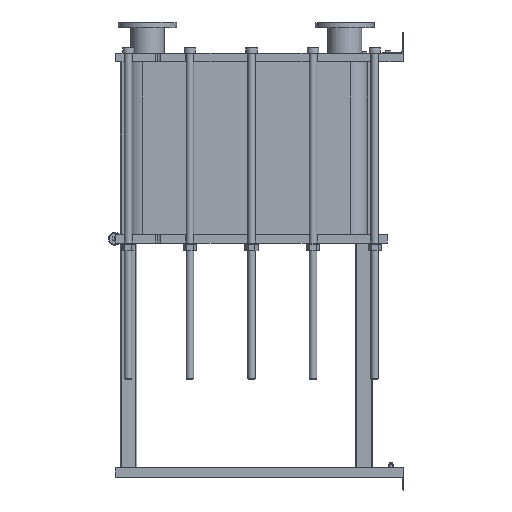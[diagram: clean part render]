
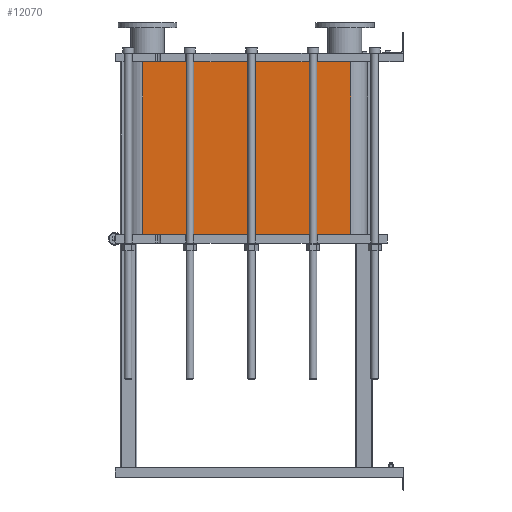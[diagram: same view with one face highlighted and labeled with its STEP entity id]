
A CAD part, left-side view. The second image highlights one B-rep face of the part: STEP entity #12070.
In plain terms, the highlighted planar face has unit normal (-1, 0, 0).
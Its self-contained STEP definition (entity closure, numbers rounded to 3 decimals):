
#1064=LINE('',#21140,#2164);
#1065=LINE('',#21144,#2165);
#1066=LINE('',#21146,#2166);
#1067=LINE('',#21147,#2167);
#2164=VECTOR('',#15790,10.);
#2165=VECTOR('',#15795,10.);
#2166=VECTOR('',#15796,10.);
#2167=VECTOR('',#15797,10.);
#3304=FACE_OUTER_BOUND('',#4091,.T.);
#4091=EDGE_LOOP('',(#9793,#9794,#9795,#9796));
#5677=VERTEX_POINT('',#21137);
#5678=VERTEX_POINT('',#21139);
#5679=VERTEX_POINT('',#21143);
#5680=VERTEX_POINT('',#21145);
#7118=EDGE_CURVE('',#5678,#5677,#1064,.T.);
#7120=EDGE_CURVE('',#5677,#5679,#1065,.T.);
#7121=EDGE_CURVE('',#5680,#5679,#1066,.T.);
#7122=EDGE_CURVE('',#5680,#5678,#1067,.T.);
#9793=ORIENTED_EDGE('',*,*,#7120,.T.);
#9794=ORIENTED_EDGE('',*,*,#7121,.F.);
#9795=ORIENTED_EDGE('',*,*,#7122,.T.);
#9796=ORIENTED_EDGE('',*,*,#7118,.T.);
#11441=PLANE('',#13191);
#12070=ADVANCED_FACE('',(#3304),#11441,.T.);
#13191=AXIS2_PLACEMENT_3D('',#21142,#15793,#15794);
#15790=DIRECTION('',(0.,0.,-1.));
#15793=DIRECTION('center_axis',(-1.,0.,0.));
#15794=DIRECTION('ref_axis',(0.,1.,0.));
#15795=DIRECTION('',(0.,-1.,0.));
#15796=DIRECTION('',(0.,0.,-1.));
#15797=DIRECTION('',(0.,1.,0.));
#21137=CARTESIAN_POINT('',(-248.152,1243.818,-824.55));
#21139=CARTESIAN_POINT('',(-248.152,1243.818,0.));
#21140=CARTESIAN_POINT('',(-248.152,1243.818,0.));
#21142=CARTESIAN_POINT('Origin',(-248.152,251.818,0.));
#21143=CARTESIAN_POINT('',(-248.152,251.818,-824.55));
#21144=CARTESIAN_POINT('',(-248.152,499.818,-824.55));
#21145=CARTESIAN_POINT('',(-248.152,251.818,0.));
#21146=CARTESIAN_POINT('',(-248.152,251.818,0.));
#21147=CARTESIAN_POINT('',(-248.152,251.818,0.));
